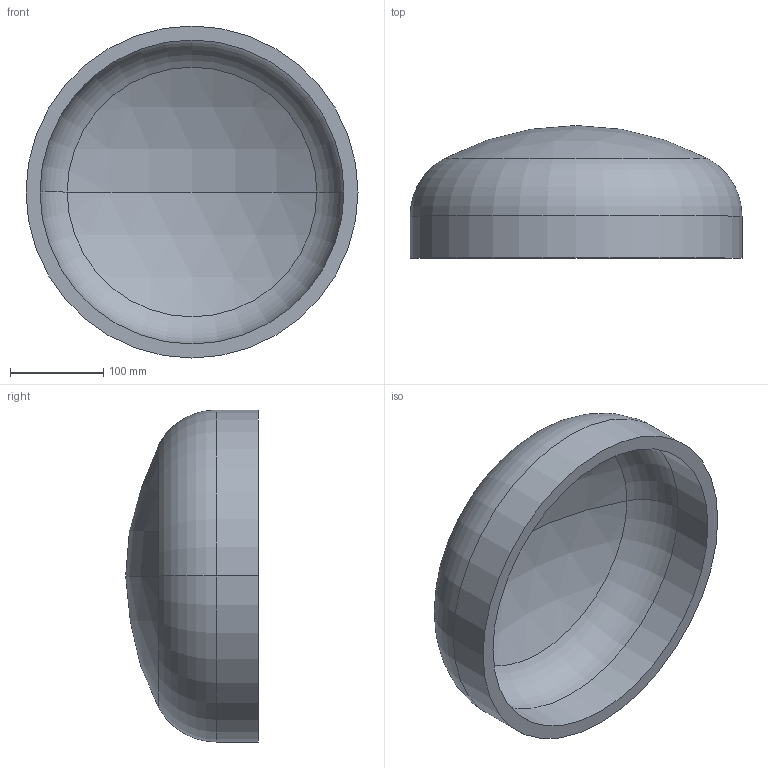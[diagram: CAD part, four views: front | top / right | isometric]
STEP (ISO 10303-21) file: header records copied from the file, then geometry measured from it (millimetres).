
FILE_DESCRIPTION (( 'STEP AP203' ), '1' );
FILE_NAME ('DIN 28013 Korbbogenform_-_Boden DIN 28013 - 355,6 x 45 - I - s=15.step', '2016-07-01T07:46:33', ( '' ), ( '' ), 'SwSTEP 2.0', 'SolidWorks 2013', '' );
FILE_SCHEMA (( 'CONFIG_CONTROL_DESIGN' ));
Length unit declared in the file: millimetre
Products named in the file (1): DIN 28013 Korbbogenform_-_Boden DIN 28013 - 355,6 x 45 - I - s=15
Bounding box: 355.6 x 141.96 x 355.6 mm (x, y, z)
Volume: 2677891.3 mm3; surface area: 373573.7 mm2
Topology: 1 solids, 1 shells, 13 faces, 24 edges, 14 vertices
Faces by surface type: torus 4, cylinder 4, sphere 4, plane 1
Entity records: 407 total; most frequent: DIRECTION 72, CARTESIAN_POINT 52, ORIENTED_EDGE 48, AXIS2_PLACEMENT_3D 34, EDGE_CURVE 24, CIRCLE 20, VERTEX_POINT 14, EDGE_LOOP 14
